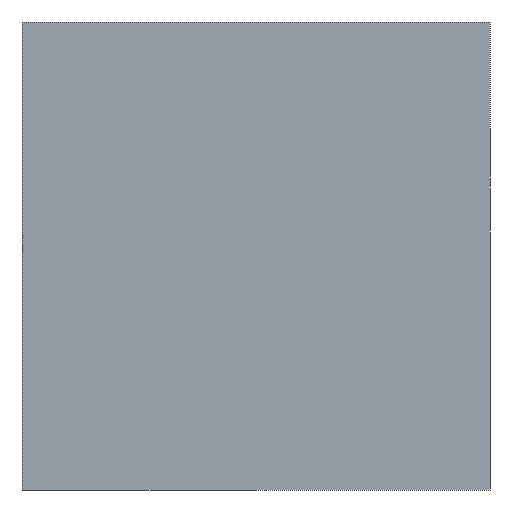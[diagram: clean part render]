
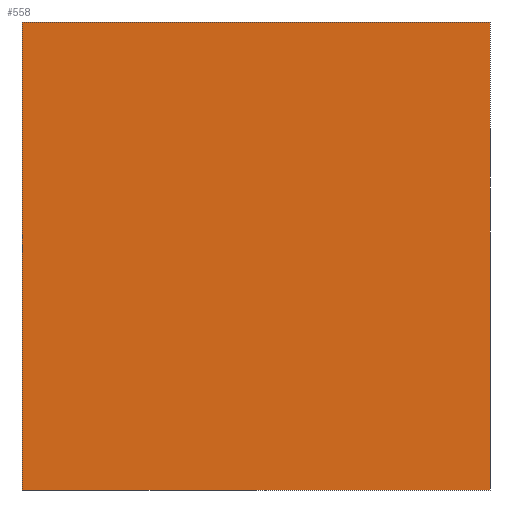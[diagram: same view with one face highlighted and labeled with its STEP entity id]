
A CAD part, left-side view. The second image highlights one B-rep face of the part: STEP entity #558.
In plain terms, the highlighted planar face has unit normal (-1, 0, 0).
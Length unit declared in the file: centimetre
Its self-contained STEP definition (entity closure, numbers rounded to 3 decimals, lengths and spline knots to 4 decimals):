
#2 = DIRECTION ( 'NONE',  ( 0., 0., -1. ) ) ;
#8 = EDGE_CURVE ( 'NONE', #303, #461, #443, .T. ) ;
#13 = VECTOR ( 'NONE', #637, 100. ) ;
#20 = DIRECTION ( 'NONE',  ( 1., 0., 0. ) ) ;
#29 = LINE ( 'NONE', #231, #268 ) ;
#98 = EDGE_CURVE ( 'NONE', #515, #247, #318, .T. ) ;
#101 = EDGE_LOOP ( 'NONE', ( #264, #473, #578, #149 ) ) ;
#133 = DIRECTION ( 'NONE',  ( 0., -1., 0. ) ) ;
#149 = ORIENTED_EDGE ( 'NONE', *, *, #181, .T. ) ;
#181 = EDGE_CURVE ( 'NONE', #515, #303, #29, .T. ) ;
#225 = DIRECTION ( 'NONE',  ( 0., 0., -1. ) ) ;
#231 = CARTESIAN_POINT ( 'NONE',  ( 0., 1000., 1000. ) ) ;
#238 = EDGE_CURVE ( 'NONE', #247, #461, #408, .T. ) ;
#247 = VERTEX_POINT ( 'NONE', #630 ) ;
#257 = CARTESIAN_POINT ( 'NONE',  ( 0., 0., 0. ) ) ;
#264 = ORIENTED_EDGE ( 'NONE', *, *, #8, .T. ) ;
#265 = CARTESIAN_POINT ( 'NONE',  ( 0., 1000., 0. ) ) ;
#268 = VECTOR ( 'NONE', #2, 100. ) ;
#269 = CARTESIAN_POINT ( 'NONE',  ( 0., 0., 1000. ) ) ;
#303 = VERTEX_POINT ( 'NONE', #627 ) ;
#315 = CARTESIAN_POINT ( 'NONE',  ( 0., 1000., 1000. ) ) ;
#318 = LINE ( 'NONE', #329, #13 ) ;
#329 = CARTESIAN_POINT ( 'NONE',  ( 0., 1000., 1000. ) ) ;
#379 = FACE_OUTER_BOUND ( 'NONE', #101, .T. ) ;
#397 = VECTOR ( 'NONE', #466, 100. ) ;
#408 = LINE ( 'NONE', #269, #397 ) ;
#431 = CARTESIAN_POINT ( 'NONE',  ( 0., 1000., 1000. ) ) ;
#443 = LINE ( 'NONE', #265, #599 ) ;
#458 = AXIS2_PLACEMENT_3D ( 'NONE', #431, #20, #225 ) ;
#461 = VERTEX_POINT ( 'NONE', #257 ) ;
#466 = DIRECTION ( 'NONE',  ( 0., 0., -1. ) ) ;
#473 = ORIENTED_EDGE ( 'NONE', *, *, #238, .F. ) ;
#515 = VERTEX_POINT ( 'NONE', #315 ) ;
#543 = PLANE ( 'NONE',  #458 ) ;
#558 = ADVANCED_FACE ( 'NONE', ( #379 ), #543, .F. ) ;
#578 = ORIENTED_EDGE ( 'NONE', *, *, #98, .F. ) ;
#599 = VECTOR ( 'NONE', #133, 100. ) ;
#627 = CARTESIAN_POINT ( 'NONE',  ( 0., 1000., 0. ) ) ;
#630 = CARTESIAN_POINT ( 'NONE',  ( 0., 0., 1000. ) ) ;
#637 = DIRECTION ( 'NONE',  ( 0., -1., 0. ) ) ;
